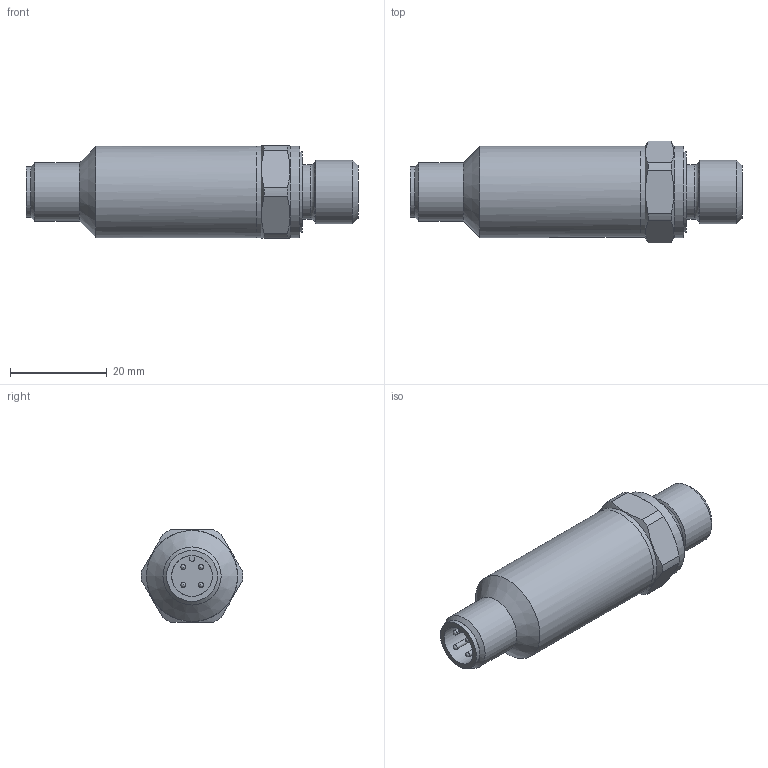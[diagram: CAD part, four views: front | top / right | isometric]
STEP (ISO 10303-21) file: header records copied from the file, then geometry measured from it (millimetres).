
FILE_DESCRIPTION( ( 'Unknown' ), '1' );
FILE_NAME( 'X:/SolidEdge/Models/Dokumentationen/Drucksensorik/vereinfachte Modelle/Neutralformate/PDRB_E002.stp', 'Unknown', ( 'Unknown' ), ( 'Unknown' ), 'PSStep 14.0', 'Unknown', ' ' );
FILE_SCHEMA( ( 'AUTOMOTIVE_DESIGN { 1 0 10303 214 1 1 1 1 }' ) );
Length unit declared in the file: millimetre
Products named in the file (2): Assem1; 142205
Bounding box: 68.5 x 21 x 19 mm (x, y, z)
Surface area: 9929.9 mm2
Topology: 2 solids, 12 shells, 144 faces, 304 edges, 196 vertices
Faces by surface type: cylinder 58, plane 54, cone 20, sphere 8, torus 4
Full cylindrical faces by diameter (mm): 0.5 x8, 1 x10, 3.2 x2, 4 x2, 4.134 x2, 8.4 x2, 10.5 x2, 11.2 x2, 12 x2, 13.157 x2, 14 x2, 16.6 x2, 16.8 x2, 18.8 x2, 18.9 x2
Entity records: 2281 total; most frequent: CARTESIAN_POINT 359, DIRECTION 298, ORIENTED_EDGE 194, AXIS2_PLACEMENT_3D 139, EDGE_LOOP 118, EDGE_CURVE 97, FACE_OUTER_BOUND 96, VERTEX_POINT 81
